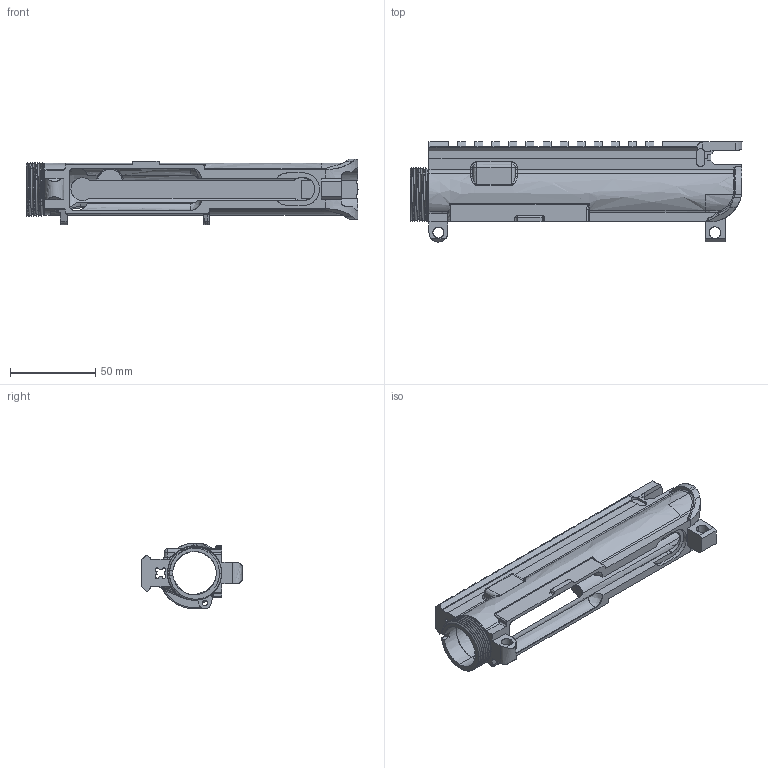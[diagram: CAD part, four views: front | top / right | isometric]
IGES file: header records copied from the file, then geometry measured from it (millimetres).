
Start section: SolidWorks IGES FILE using analytic representation for surfaces
Global section: file name: C:\Documents and Settings\My Name\Desktop\9mm_AR15_A3_Upper_Receiver.IGS; native system: SolidWorks 2004 by SolidWorks Corporation; preprocessor: Version 5.3; author: My Name; date: 060209.131556; units: inch
Bounding box: 194.41 x 58.58 x 38.58 mm (x, y, z)
Surface area: 49319.4 mm2 (no closed solid volume)
Topology: 0 solids, 0 shells, 527 faces, 5437 edges, 5427 vertices
Faces by surface type: bspline 304, revolution 223
